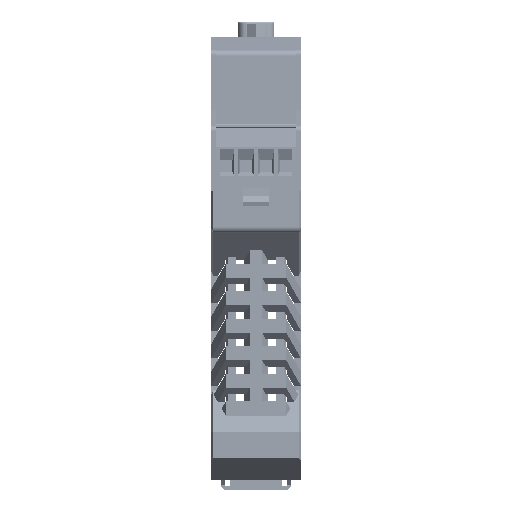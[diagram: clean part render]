
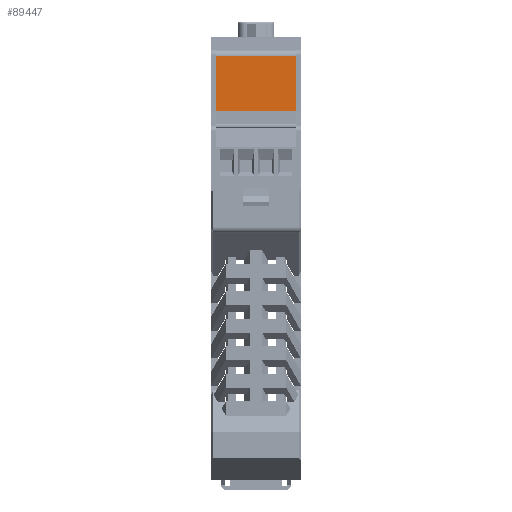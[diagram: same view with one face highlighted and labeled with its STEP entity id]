
A CAD part, front view. The second image highlights one B-rep face of the part: STEP entity #89447.
In plain terms, the highlighted planar face has unit normal (0, -1, 0.001) as drawn and (-1, 0, 0) by its records, which use the part's own axes.
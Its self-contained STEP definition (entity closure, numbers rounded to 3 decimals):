
#89447=ADVANCED_FACE('',(#170252),#170254,.T.);
#170252=FACE_BOUND('',#170253,.T.);
#170253=EDGE_LOOP('',(#235719,#235720,#235721,#235722));
#170254=PLANE('',#170255);
#170255=AXIS2_PLACEMENT_3D('',#170256,#170257,#170258);
#170256=CARTESIAN_POINT('',(-38.8,110.338,32.65));
#170257=DIRECTION('',(-1.,0.,0.));
#170258=DIRECTION('',(0.,-1.,0.));
#235719=ORIENTED_EDGE('',*,*,#270933,.F.);
#235720=ORIENTED_EDGE('',*,*,#270934,.T.);
#235721=ORIENTED_EDGE('',*,*,#270900,.F.);
#235722=ORIENTED_EDGE('',*,*,#270935,.F.);
#270900=EDGE_CURVE('',#320568,#320570,#320571,.T.);
#270933=EDGE_CURVE('',#320629,#320630,#320631,.T.);
#270934=EDGE_CURVE('',#320629,#320570,#320632,.T.);
#270935=EDGE_CURVE('',#320630,#320568,#320633,.T.);
#320568=VERTEX_POINT('',#436084);
#320570=VERTEX_POINT('',#436088);
#320571=LINE('',#436089,#436090);
#320629=VERTEX_POINT('',#436213);
#320630=VERTEX_POINT('',#436214);
#320631=LINE('',#436215,#436216);
#320632=LINE('',#436218,#436219);
#320633=LINE('',#436221,#436222);
#436084=CARTESIAN_POINT('',(-38.8,96.407,32.6));
#436088=CARTESIAN_POINT('',(-38.8,96.407,12.6));
#436089=CARTESIAN_POINT('',(-38.8,96.407,32.6));
#436090=VECTOR('',#436091,1.);
#436091=DIRECTION('',(0.,0.,-1.));
#436213=CARTESIAN_POINT('',(-38.8,110.249,12.6));
#436214=CARTESIAN_POINT('',(-38.8,110.249,32.6));
#436215=CARTESIAN_POINT('',(-38.8,110.249,12.6));
#436216=VECTOR('',#436217,1.);
#436217=DIRECTION('',(0.,0.,1.));
#436218=CARTESIAN_POINT('',(-38.8,110.249,12.6));
#436219=VECTOR('',#436220,1.);
#436220=DIRECTION('',(0.,-1.,0.));
#436221=CARTESIAN_POINT('',(-38.8,110.249,32.6));
#436222=VECTOR('',#436223,1.);
#436223=DIRECTION('',(0.,-1.,0.));
